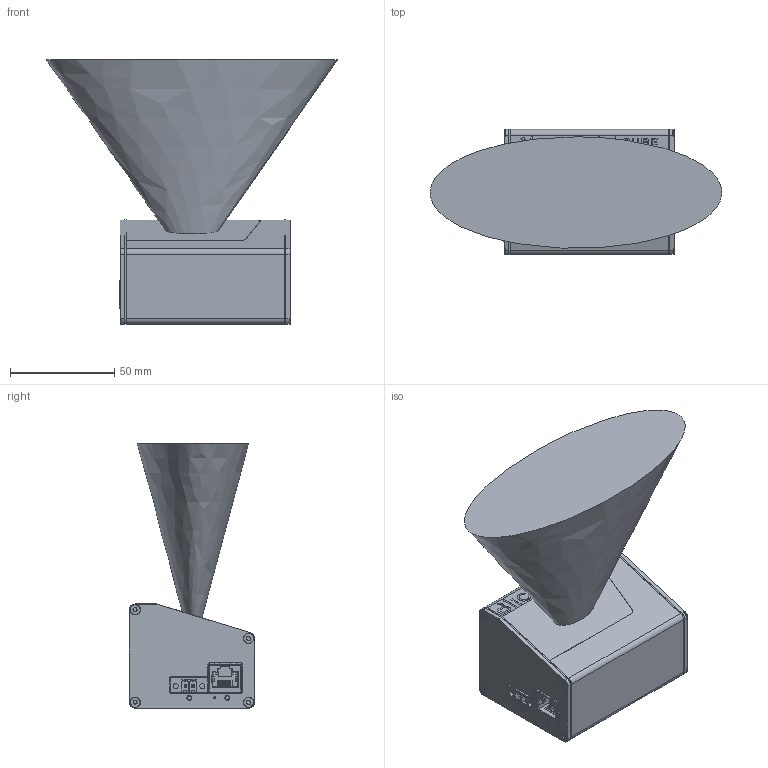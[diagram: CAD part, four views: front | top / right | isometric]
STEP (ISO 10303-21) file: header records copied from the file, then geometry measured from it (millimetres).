
FILE_DESCRIPTION(/* description */ (''),/* implementation_level */ '2;1');
FILE_NAME(/* name */ 'Z:\Electronics\CAD\Inventor\Cube\Cube Versions\Cube_v1.0.0\ref parts\Cube with Cube insignia\Neuer Ordner\Cube 1-FieldofView.stp',/* time_stamp */ '2020-04-21T14:48:41+02:00',/* author */ ('kuncham'),/* organization */ (''),/* preprocessor_version */ 'ST-DEVELOPER v18',/* originating_system */ 'Autodesk Inventor 2020',/* authorisation */ '');
FILE_SCHEMA (('AUTOMOTIVE_DESIGN { 1 0 10303 214 3 1 1 }'));
Products named in the file (1): Cube 1
Bounding box: 140.03 x 60.1 x 126.9 mm (x, y, z)
Volume: 245467.9 mm3; surface area: 71942.4 mm2
Topology: 1 solids, 1 shells, 1576 faces, 4404 edges, 2914 vertices
Faces by surface type: plane 962, cylinder 476, bspline 79, cone 33, torus 16, sphere 10
Full cylindrical faces by diameter (mm): 0.457 x1, 1 x1, 1.2 x2, 1.25 x2, 1.6 x1, 1.9 x2, 2 x2, 2.146 x2, 2.459 x1, 2.5 x10, 2.7 x8, 4.134 x3, 4.7 x8, 5 x8
Entity records: 59902 total; most frequent: CARTESIAN_POINT 17608, ORIENTED_EDGE 8794, DIRECTION 8340, EDGE_CURVE 4397, LINE 3024, VECTOR 3024, VERTEX_POINT 2914, AXIS2_PLACEMENT_3D 2658
